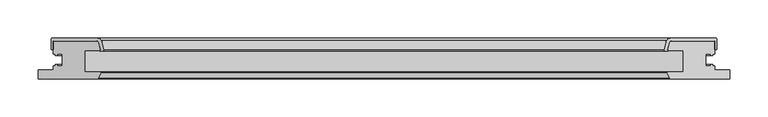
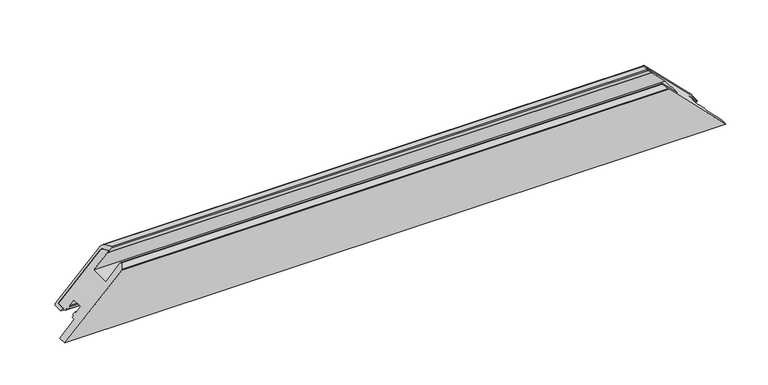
"""IFC4 building model written with IfcOpenShell, lengths in millimetres: proxy geometry, Weiku - Montante - Folha 02.2.01.017 : Weiku - Montante - Folha 02.2.01.017."""

from ifc_helpers import new_model, si_unit, frame, origin, place, context, project, spatial, polyline, ellipse_curve, source, transform, mapped, element, save
from ifc_brep_helpers import plane_surface, cylinder_surface, revolved_surface, advanced_brep


def generic_models_44abd13b(model_context):
    return source(origin(), model_context, "Body", "AdvancedBrep", [
        advanced_brep(
        [(434.0, 50.0, 20.0), (376.9997332, 50.0, 77.0002668), (-376.9997332, 50.0, 77.0002668), (-434.0, 50.0, 20.0), (374.1019557, 47.7764571, 79.8980443), (-374.1019557, 47.7764571, 79.8980443), (371.5170371, 38.1294095, 82.4829629), (-371.5170371, 38.1294095, 82.4829629), (372.0, 37.5, 82.0), (-372.0, 37.5, 82.0), (372.8560102, 37.5, 81.1439898), (-372.8560102, 37.5, 81.1439898), (372.8560102, 36.5, 81.1439898), (-372.8560102, 36.5, 81.1439898), (368.2425588, 36.5, 85.7574412), (-368.2425588, 36.5, 85.7574412), (367.2766329, 37.758819, 86.7233671), (-367.2766329, 37.758819, 86.7233671), (370.6354501, 50.2940952, 83.3645499), (-370.6354501, 50.2940952, 83.3645499), (375.4650792, 54.0, 78.5349208), (-375.4650792, 54.0, 78.5349208), (435.0, 54.0, 19.0), (-435.0, 54.0, 19.0), (437.0, 52.0, 17.0), (-437.0, 52.0, 17.0), (437.0, 38.5, 17.0), (-437.0, 38.5, 17.0), (434.0, 38.5, 20.0), (-434.0, 38.5, 20.0)],
        [
            (0, 1),
            (1, 2),
            (2, 3),
            (3, 0),
            (1, 4, ellipse_curve(frame((376.9997332, 47.0, 77.0002668), z_axis=(0.7071067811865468, 0.0, 0.7071067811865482), x_axis=(0.7071067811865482, 0.0, -0.7071067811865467)), 4.2426407, 3.0)),
            (4, 5),
            (5, 2, ellipse_curve(frame((-376.9997332, 47.0, 77.0002668), z_axis=(-0.7071067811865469, 0.0, 0.7071067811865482), x_axis=(0.707106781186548, 0.0, 0.7071067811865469)), 4.2426407, 3.0)),
            (4, 6),
            (6, 7),
            (7, 5),
            (6, 8, ellipse_curve(frame((372.0, 38.0, 82.0), z_axis=(0.7071067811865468, 0.0, 0.7071067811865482), x_axis=(0.7071067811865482, 0.0, -0.7071067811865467)), 0.7071068, 0.5)),
            (8, 9),
            (9, 7, ellipse_curve(frame((-372.0, 38.0, 82.0), z_axis=(-0.7071067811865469, 0.0, 0.7071067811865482), x_axis=(0.707106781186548, 0.0, 0.7071067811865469)), 0.7071068, 0.5)),
            (8, 10),
            (10, 11),
            (11, 9),
            (10, 12, ellipse_curve(frame((372.8560102, 37.0, 81.1439898), z_axis=(-0.7071067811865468, 0.0, -0.7071067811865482), x_axis=(-0.7071067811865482, 0.0, 0.7071067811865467)), 0.7071068, 0.5)),
            (12, 13),
            (13, 11, ellipse_curve(frame((-372.8560102, 37.0, 81.1439898), z_axis=(0.7071067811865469, 0.0, -0.7071067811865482), x_axis=(-0.707106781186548, 0.0, -0.7071067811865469)), 0.7071068, 0.5)),
            (12, 14),
            (14, 15),
            (15, 13),
            (14, 16, ellipse_curve(frame((368.2425588, 37.5, 85.7574412), z_axis=(-0.7071067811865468, 0.0, -0.7071067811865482), x_axis=(-0.7071067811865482, 0.0, 0.7071067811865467)), 1.4142136, 1.0)),
            (16, 17),
            (17, 15, ellipse_curve(frame((-368.2425588, 37.5, 85.7574412), z_axis=(0.7071067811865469, 0.0, -0.7071067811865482), x_axis=(-0.707106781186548, 0.0, -0.7071067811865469)), 1.4142136, 1.0)),
            (16, 18),
            (18, 19),
            (19, 17),
            (18, 20, ellipse_curve(frame((375.4650792, 49.0, 78.5349208), z_axis=(-0.7071067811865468, 0.0, -0.7071067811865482), x_axis=(-0.7071067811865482, 0.0, 0.7071067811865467)), 7.0710678, 5.0)),
            (20, 21),
            (21, 19, ellipse_curve(frame((-375.4650792, 49.0, 78.5349208), z_axis=(0.7071067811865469, 0.0, -0.7071067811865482), x_axis=(-0.707106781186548, 0.0, -0.7071067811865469)), 7.0710678, 5.0)),
            (20, 22),
            (22, 23),
            (23, 21),
            (22, 24, ellipse_curve(frame((435.0, 52.0, 19.0), z_axis=(-0.7071067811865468, 0.0, -0.7071067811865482), x_axis=(-0.7071067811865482, 0.0, 0.7071067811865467)), 2.8284271, 2.0)),
            (24, 25),
            (25, 23, ellipse_curve(frame((-435.0, 52.0, 19.0), z_axis=(0.7071067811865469, 0.0, -0.7071067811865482), x_axis=(-0.707106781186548, 0.0, -0.7071067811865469)), 2.8284271, 2.0)),
            (24, 26),
            (26, 27),
            (27, 25),
            (26, 28),
            (28, 29),
            (29, 27),
            (28, 0),
            (3, 29),
        ],
        [
            plane_surface(frame((-474.0, 50.0, 20.0), z_axis=(0.0, -1.0, 0.0), x_axis=(1.0, 0.0, 0.0))),
            revolved_surface(polyline([(379.99973320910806, 50.0, 77.0002668), (-379.99973320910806, 50.0, 77.0002668)]), (-474.0, 47.0, 77.0002668), (1.0, 0.0, 0.0)),
            plane_surface(frame((-474.0, 47.7764571, 79.8980443), z_axis=(0.0, -0.2588190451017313, -0.9659258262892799), x_axis=(1.0, 0.0, 0.0))),
            revolved_surface(polyline([(372.50000001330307, 38.5, 82.0), (-372.5000000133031, 38.5, 82.0)]), (-474.0, 38.0, 82.0), (1.0, 0.0, 0.0)),
            plane_surface(frame((-474.0, 37.5, 82.0), z_axis=(0.0, 1.0, 0.0), x_axis=(1.0, 0.0, 0.0))),
            cylinder_surface(frame((-474.0, 37.0, 81.1439898), z_axis=(-1.0, 0.0, 0.0), x_axis=(0.0, 1.0, 0.0)), 0.5),
            plane_surface(frame((-474.0, 36.5, 81.1439898), z_axis=(0.0, -1.0, 0.0), x_axis=(1.0, 0.0, 0.0))),
            cylinder_surface(frame((-474.0, 37.5, 85.7574412), z_axis=(-1.0, 0.0, 0.0), x_axis=(0.0, 1.0, 0.0)), 1.0),
            plane_surface(frame((-474.0, 37.758819, 86.7233671), z_axis=(0.0, 0.25881904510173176, 0.9659258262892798), x_axis=(1.0, 0.0, 0.0))),
            cylinder_surface(frame((-474.0, 49.0, 78.5349208), z_axis=(-1.0, 0.0, 0.0), x_axis=(0.0, 1.0, 0.0)), 5.0),
            plane_surface(frame((-474.0, 54.0, 78.5349208), z_axis=(0.0, 1.0, 0.0), x_axis=(1.0, 0.0, 0.0))),
            cylinder_surface(frame((-474.0, 52.0, 19.0), z_axis=(-1.0, 0.0, 0.0), x_axis=(0.0, 1.0, 0.0)), 2.0),
            plane_surface(frame((-474.0, 52.0, 17.0), z_axis=(0.0, 0.0, -1.0), x_axis=(1.0, 0.0, 0.0))),
            plane_surface(frame((-474.0, 38.5, 17.0), z_axis=(0.0, -1.0, 0.0), x_axis=(1.0, 0.0, 0.0))),
            plane_surface(frame((-474.0, 38.5, 20.0), z_axis=(0.0, 0.0, 1.0), x_axis=(1.0, 0.0, 0.0))),
            plane_surface(frame((364.0, 0.0, 90.0), z_axis=(0.7071067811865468, 0.0, 0.7071067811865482), x_axis=(0.0, 1.0, 0.0))),
            plane_surface(frame((-482.2842712, 0.0, -28.2842712), z_axis=(-0.7071067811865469, 0.0, 0.7071067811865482), x_axis=(0.0, 1.0, 0.0))),
        ],
        [
            (0, [[1, 2, 3, 4]]),
            (1, [[5, 6, 7, -2]]),
            (2, [[8, 9, 10, -6]]),
            (3, [[11, 12, 13, -9]]),
            (4, [[14, 15, 16, -12]]),
            (5, [[17, 18, 19, -15]]),
            (6, [[20, 21, 22, -18]]),
            (7, [[23, 24, 25, -21]]),
            (8, [[26, 27, 28, -24]]),
            (9, [[29, 30, 31, -27]]),
            (10, [[32, 33, 34, -30]]),
            (11, [[35, 36, 37, -33]]),
            (12, [[38, 39, 40, -36]]),
            (13, [[41, 42, 43, -39]]),
            (14, [[44, -4, 45, -42]]),
            (15, [[-1, -44, -41, -38, -35, -32, -29, -26, -23, -20, -17, -14, -11, -8, -5]]),
            (16, [[-3, -7, -10, -13, -16, -19, -22, -25, -28, -31, -34, -37, -40, -43, -45]]),
        ],
    ),
        advanced_brep(
        [(-434.0, 50.0, 20.0), (-376.9997332, 50.0, 77.0002668), (376.9997332, 50.0, 77.0002668), (434.0, 50.0, 20.0), (-454.0, 0.0, 0.0), (454.0, 0.0, 0.0), (375.9872264, 0.0, 78.0127736), (-375.9872264, 0.0, 78.0127736), (-434.0, 33.1, 20.0), (-431.8, 33.1, 22.2), (-431.8, 31.1, 22.2), (-429.0, 31.1, 25.0), (-429.0, 33.1, 25.0), (-422.5, 33.1, 31.5), (-422.5, 16.9, 31.5), (-429.0, 16.9, 25.0), (-429.0, 18.9, 25.0), (-431.8, 18.9, 22.2), (-431.8, 16.9, 22.2), (-434.0, 16.9, 20.0), (-434.0, 11.5, 20.0), (-454.0, 11.5, 0.0), (-375.0932657, 0.5518546, 78.9067343), (-371.5512796, 7.617411, 82.4487204), (-372.7134285, 9.5, 81.2865715), (-392.5, 9.5, 61.5), (-392.5, 37.5, 61.5), (-372.0, 37.5, 82.0), (-371.5170371, 38.1294095, 82.4829629), (-374.1019557, 47.7764571, 79.8980443), (374.1019557, 47.7764571, 79.8980443), (371.5170371, 38.1294095, 82.4829629), (372.0, 37.5, 82.0), (392.5, 37.5, 61.5), (392.5, 9.5, 61.5), (372.7134285, 9.5, 81.2865715), (371.5512796, 7.617411, 82.4487204), (375.0932657, 0.5518546, 78.9067343), (454.0, 11.5, 0.0), (434.0, 11.5, 20.0), (434.0, 16.9, 20.0), (431.8, 16.9, 22.2), (431.8, 18.9, 22.2), (429.0, 18.9, 25.0), (429.0, 16.9, 25.0), (422.5, 16.9, 31.5), (422.5, 33.1, 31.5), (429.0, 33.1, 25.0), (429.0, 31.1, 25.0), (431.8, 31.1, 22.2), (431.8, 33.1, 22.2), (434.0, 33.1, 20.0)],
        [
            (0, 1),
            (1, 2),
            (2, 3),
            (3, 0),
            (4, 5),
            (5, 6),
            (6, 7),
            (7, 4),
            (0, 8),
            (8, 9),
            (9, 10),
            (10, 11),
            (11, 12),
            (12, 13),
            (13, 14),
            (14, 15),
            (15, 16),
            (16, 17),
            (17, 18),
            (18, 19),
            (19, 20),
            (20, 21),
            (21, 4),
            (7, 22, ellipse_curve(frame((-375.9872264, 1.0, 78.0127736), z_axis=(-0.7071067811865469, 0.0, 0.7071067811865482), x_axis=(-0.707106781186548, 0.0, -0.7071067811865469)), 1.4142136, 1.0)),
            (22, 23),
            (23, 24, ellipse_curve(frame((-372.7134285, 8.2, 81.2865715), z_axis=(-0.7071067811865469, 0.0, 0.7071067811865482), x_axis=(-0.707106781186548, 0.0, -0.7071067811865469)), 1.8384776, 1.3)),
            (24, 25),
            (25, 26),
            (26, 27),
            (27, 28, ellipse_curve(frame((-372.0, 38.0, 82.0), z_axis=(-0.7071067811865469, 0.0, 0.7071067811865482), x_axis=(-0.707106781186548, 0.0, -0.7071067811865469)), 0.7071068, 0.5)),
            (28, 29),
            (29, 1, ellipse_curve(frame((-376.9997332, 47.0, 77.0002668), z_axis=(-0.7071067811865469, 0.0, 0.7071067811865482), x_axis=(-0.707106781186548, 0.0, -0.7071067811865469)), 4.2426407, 3.0)),
            (2, 30, ellipse_curve(frame((376.9997332, 47.0, 77.0002668), z_axis=(0.7071067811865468, 0.0, 0.7071067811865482), x_axis=(-0.7071067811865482, 0.0, 0.7071067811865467)), 4.2426407, 3.0)),
            (30, 31),
            (31, 32, ellipse_curve(frame((372.0, 38.0, 82.0), z_axis=(0.7071067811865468, 0.0, 0.7071067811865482), x_axis=(-0.7071067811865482, 0.0, 0.7071067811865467)), 0.7071068, 0.5)),
            (32, 33),
            (33, 34),
            (34, 35),
            (35, 36, ellipse_curve(frame((372.7134285, 8.2, 81.2865715), z_axis=(0.7071067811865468, 0.0, 0.7071067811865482), x_axis=(-0.7071067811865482, 0.0, 0.7071067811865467)), 1.8384776, 1.3)),
            (36, 37),
            (37, 6, ellipse_curve(frame((375.9872264, 1.0, 78.0127736), z_axis=(0.7071067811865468, 0.0, 0.7071067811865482), x_axis=(-0.7071067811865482, 0.0, 0.7071067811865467)), 1.4142136, 1.0)),
            (5, 38),
            (38, 39),
            (39, 40),
            (40, 41),
            (41, 42),
            (42, 43),
            (43, 44),
            (44, 45),
            (45, 46),
            (46, 47),
            (47, 48),
            (48, 49),
            (49, 50),
            (50, 51),
            (51, 3),
            (37, 22),
            (36, 23),
            (35, 24),
            (34, 25),
            (33, 26),
            (32, 27),
            (31, 28),
            (30, 29),
            (51, 8),
            (50, 9),
            (49, 10),
            (48, 11),
            (47, 12),
            (46, 13),
            (45, 14),
            (44, 15),
            (43, 16),
            (42, 17),
            (41, 18),
            (40, 19),
            (39, 20),
            (38, 21),
        ],
        [
            plane_surface(frame((-454.0, 50.0, 77.0002668), z_axis=(0.0, 1.0, 0.0), x_axis=(1.0, 0.0, 0.0))),
            plane_surface(frame((-454.0, 0.0, 0.0), z_axis=(0.0, -1.0, 0.0), x_axis=(1.0, 0.0, 0.0))),
            plane_surface(frame((-482.2842712, 0.0, -28.2842712), z_axis=(-0.7071067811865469, 0.0, 0.7071067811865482), x_axis=(0.0, 1.0, 0.0))),
            plane_surface(frame((364.0, 0.0, 90.0), z_axis=(0.7071067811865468, 0.0, 0.7071067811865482), x_axis=(0.0, 1.0, 0.0))),
            cylinder_surface(frame((-454.0, 1.0, 78.0127736), z_axis=(-1.0, 0.0, 0.0), x_axis=(0.0, 1.0, 0.0)), 1.0),
            plane_surface(frame((-454.0, 0.5518546, 78.9067343), z_axis=(0.0, -0.4481453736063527, 0.8939606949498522), x_axis=(1.0, 0.0, 0.0))),
            cylinder_surface(frame((-454.0, 8.2, 81.2865715), z_axis=(-1.0, 0.0, 0.0), x_axis=(0.0, 1.0, 0.0)), 1.3),
            plane_surface(frame((-454.0, 9.5, 81.2865715), z_axis=(0.0, 1.0, 0.0), x_axis=(1.0, 0.0, 0.0))),
            plane_surface(frame((-454.0, 9.5, 61.5), z_axis=(0.0, 0.0, 1.0), x_axis=(1.0, 0.0, 0.0))),
            plane_surface(frame((-454.0, 37.5, 61.5), z_axis=(0.0, -1.0, 0.0), x_axis=(1.0, 0.0, 0.0))),
            cylinder_surface(frame((-454.0, 38.0, 82.0), z_axis=(-1.0, 0.0, 0.0), x_axis=(0.0, 1.0, 0.0)), 0.5),
            plane_surface(frame((-454.0, 38.1294095, 82.4829629), z_axis=(0.0, 0.2588190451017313, 0.9659258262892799), x_axis=(1.0, 0.0, 0.0))),
            cylinder_surface(frame((-454.0, 47.0, 77.0002668), z_axis=(-1.0, 0.0, 0.0), x_axis=(0.0, 1.0, 0.0)), 3.0),
            plane_surface(frame((-454.0, 50.0, 20.0), z_axis=(0.0, 0.0, -1.0), x_axis=(1.0, 0.0, 0.0))),
            plane_surface(frame((-454.0, 33.1, 20.0), z_axis=(0.0, -1.0, 0.0), x_axis=(1.0, 0.0, 0.0))),
            plane_surface(frame((-454.0, 33.1, 22.2), z_axis=(0.0, 0.0, -1.0), x_axis=(1.0, 0.0, 0.0))),
            plane_surface(frame((-454.0, 31.1, 22.2), z_axis=(0.0, -1.0, 0.0), x_axis=(1.0, 0.0, 0.0))),
            plane_surface(frame((-454.0, 31.1, 25.0), z_axis=(0.0, 0.0, 1.0), x_axis=(1.0, 0.0, 0.0))),
            plane_surface(frame((-454.0, 33.1, 25.0), z_axis=(0.0, -1.0, 0.0), x_axis=(1.0, 0.0, 0.0))),
            plane_surface(frame((-454.0, 33.1, 31.5), z_axis=(0.0, 0.0, -1.0), x_axis=(1.0, 0.0, 0.0))),
            plane_surface(frame((-454.0, 16.9, 31.5), z_axis=(0.0, 1.0, 0.0), x_axis=(1.0, 0.0, 0.0))),
            plane_surface(frame((-454.0, 16.9, 25.0), z_axis=(0.0, 0.0, 1.0), x_axis=(1.0, 0.0, 0.0))),
            plane_surface(frame((-454.0, 18.9, 25.0), z_axis=(0.0, 1.0, 0.0), x_axis=(1.0, 0.0, 0.0))),
            plane_surface(frame((-454.0, 18.9, 22.2), z_axis=(0.0, 0.0, -1.0), x_axis=(1.0, 0.0, 0.0))),
            plane_surface(frame((-454.0, 16.9, 22.2), z_axis=(0.0, 1.0, 0.0), x_axis=(1.0, 0.0, 0.0))),
            plane_surface(frame((-454.0, 16.9, 20.0), z_axis=(0.0, 0.0, -1.0), x_axis=(1.0, 0.0, 0.0))),
            plane_surface(frame((-454.0, 11.5, 20.0), z_axis=(0.0, 1.0, 0.0), x_axis=(1.0, 0.0, 0.0))),
            plane_surface(frame((-454.0, 11.5, 0.0), z_axis=(0.0, 0.0, -1.0), x_axis=(1.0, 0.0, 0.0))),
        ],
        [
            (0, [[1, 2, 3, 4]]),
            (1, [[5, 6, 7, 8]]),
            (2, [[-1, 9, 10, 11, 12, 13, 14, 15, 16, 17, 18, 19, 20, 21, 22, 23, -8, 24, 25, 26, 27, 28, 29, 30, 31, 32]]),
            (3, [[-3, 33, 34, 35, 36, 37, 38, 39, 40, 41, -6, 42, 43, 44, 45, 46, 47, 48, 49, 50, 51, 52, 53, 54, 55, 56]]),
            (4, [[-24, -7, -41, 57]]),
            (5, [[-25, -57, -40, 58]]),
            (6, [[-26, -58, -39, 59]]),
            (7, [[-27, -59, -38, 60]]),
            (8, [[-28, -60, -37, 61]]),
            (9, [[-29, -61, -36, 62]]),
            (10, [[-30, -62, -35, 63]]),
            (11, [[-31, -63, -34, 64]]),
            (12, [[-32, -64, -33, -2]]),
            (13, [[-9, -4, -56, 65]]),
            (14, [[-10, -65, -55, 66]]),
            (15, [[-11, -66, -54, 67]]),
            (16, [[-12, -67, -53, 68]]),
            (17, [[-13, -68, -52, 69]]),
            (18, [[-14, -69, -51, 70]]),
            (19, [[-15, -70, -50, 71]]),
            (20, [[-16, -71, -49, 72]]),
            (21, [[-17, -72, -48, 73]]),
            (22, [[-18, -73, -47, 74]]),
            (23, [[-19, -74, -46, 75]]),
            (24, [[-20, -75, -45, 76]]),
            (25, [[-21, -76, -44, 77]]),
            (26, [[78, -22, -77, -43]]),
            (27, [[-5, -23, -78, -42]]),
        ],
    ),
    ])


if __name__ == "__main__":
    model = new_model("IFC4")
    model_context = context("Model", 3, world=origin())
    ifc_project = project(units=[si_unit("LENGTHUNIT", "METRE", prefix="MILLI")], contexts=[model_context])
    site = spatial("IfcSite", under=ifc_project)
    building = spatial("IfcBuilding", under=site)
    placement = place(None, origin())
    generic_models_shape = generic_models_44abd13b(model_context)
    element("IfcBuildingElementProxy", 1, Name="Weiku - Montante - Folha 02.2.01.017 : Weiku - Montante - Folha 02.2.01.017", ObjectType="Weiku - Montante - Folha 02.2.01.017 : Weiku - Montante - Folha 02.2.01.017", at=placement, inside=building, context=model_context, shape_type="MappedRepresentation", body=[
        mapped(generic_models_shape, transform((0.0, 0.0, 0.0), x_axis=(1.0, 0.0, 0.0), y_axis=(0.0, 1.0, 0.0), z_axis=(0.0, 0.0, 1.0))),
    ])
    save(model, "model.ifc")
